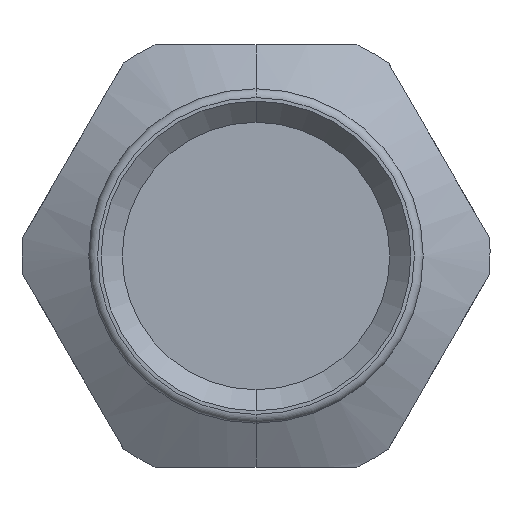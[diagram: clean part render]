
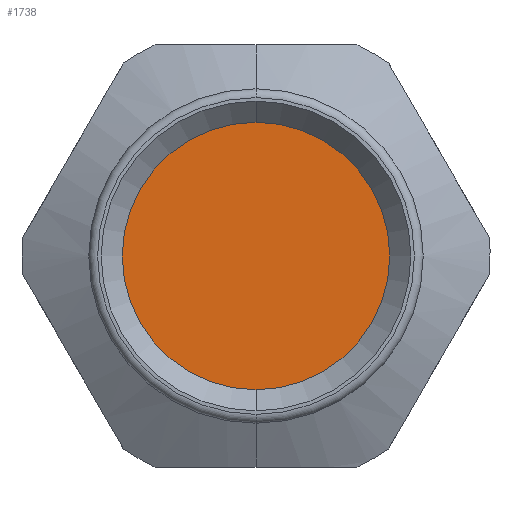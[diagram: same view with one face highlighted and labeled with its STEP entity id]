
A CAD part, front view. The second image highlights one B-rep face of the part: STEP entity #1738.
In plain terms, the highlighted planar face has unit normal (0, -1, 0).
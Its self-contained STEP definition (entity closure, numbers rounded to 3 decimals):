
#684 = CARTESIAN_POINT ( 'NONE',  ( 0., 12., 7.6 ) ) ;
#900 = ORIENTED_EDGE ( 'NONE', *, *, #2222, .T. ) ;
#1010 = CIRCLE ( 'NONE', #4868, 7.6 ) ;
#1256 = VERTEX_POINT ( 'NONE', #4993 ) ;
#1458 = CARTESIAN_POINT ( 'NONE',  ( 0., 12., 0. ) ) ;
#1738 = ADVANCED_FACE ( 'NONE', ( #1915 ), #5338, .T. ) ;
#1870 = DIRECTION ( 'NONE',  ( 0., -1., 0. ) ) ;
#1915 = FACE_OUTER_BOUND ( 'NONE', #2017, .T. ) ;
#1999 = DIRECTION ( 'NONE',  ( 0., -1., 0. ) ) ;
#2017 = EDGE_LOOP ( 'NONE', ( #900, #3556 ) ) ;
#2129 = EDGE_CURVE ( 'NONE', #2367, #1256, #3719, .T. ) ;
#2222 = EDGE_CURVE ( 'NONE', #1256, #2367, #1010, .T. ) ;
#2367 = VERTEX_POINT ( 'NONE', #684 ) ;
#3200 = CARTESIAN_POINT ( 'NONE',  ( 0., 12., 0. ) ) ;
#3556 = ORIENTED_EDGE ( 'NONE', *, *, #2129, .T. ) ;
#3719 = CIRCLE ( 'NONE', #3723, 7.6 ) ;
#3720 = DIRECTION ( 'NONE',  ( 0., 0., -1. ) ) ;
#3723 = AXIS2_PLACEMENT_3D ( 'NONE', #5000, #1999, #3720 ) ;
#4868 = AXIS2_PLACEMENT_3D ( 'NONE', #3200, #1870, #4905 ) ;
#4889 = DIRECTION ( 'NONE',  ( 0., 0., -1. ) ) ;
#4905 = DIRECTION ( 'NONE',  ( 0., 0., -1. ) ) ;
#4979 = DIRECTION ( 'NONE',  ( 0., -1., 0. ) ) ;
#4993 = CARTESIAN_POINT ( 'NONE',  ( 0., 12., -7.6 ) ) ;
#5000 = CARTESIAN_POINT ( 'NONE',  ( 0., 12., 0. ) ) ;
#5338 = PLANE ( 'NONE',  #5416 ) ;
#5416 = AXIS2_PLACEMENT_3D ( 'NONE', #1458, #4979, #4889 ) ;
